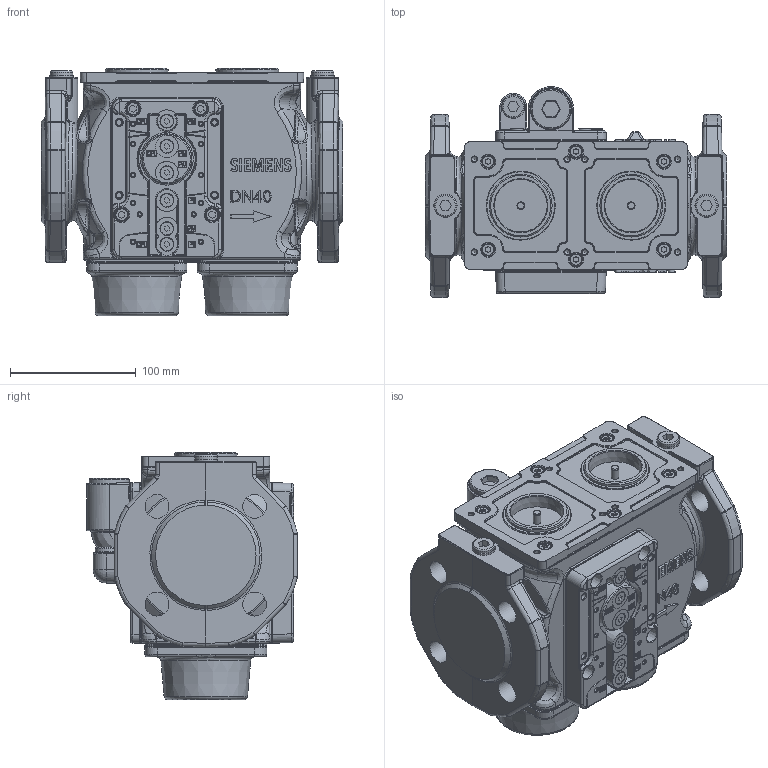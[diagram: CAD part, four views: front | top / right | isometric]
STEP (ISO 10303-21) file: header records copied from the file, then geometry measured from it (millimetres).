
FILE_DESCRIPTION(/* description */ (''),/* implementation_level */ '2;1');
FILE_NAME(/* name */ 'A5W00024972_B.stp',/* time_stamp */ '2018-06-26T11:36:36+02:00',/* author */ (''),/* organization */ (''),/* preprocessor_version */ 'ST-DEVELOPER v16',/* originating_system */ 'SIEMENS PLM Software NX 10.0',/* authorisation */ '');
FILE_SCHEMA (('AUTOMOTIVE_DESIGN { 1 0 10303 214 3 1 1 1 }'));
Products named in the file (1): Gant1EE462B7x3ds
Bounding box: 240 x 168 x 197 mm (x, y, z)
Volume: 4056096.9 mm3; surface area: 256348.2 mm2
Topology: 1 solids, 7 shells, 2963 faces, 7201 edges, 4368 vertices
Faces by surface type: plane 1124, cylinder 681, bspline 545, torus 242, cone 213, sphere 98, extrusion 60
Full cylindrical faces by diameter (mm): 4.2 x8, 5.5 x8, 6 x2, 10 x22, 10.5 x6, 11 x20, 13.5 x3, 18 x3, 18.5 x3, 19 x8, 27 x1, 32 x1, 32.5 x1, 50 x2, 54 x2
Entity records: 103977 total; most frequent: CARTESIAN_POINT 39765, ORIENTED_EDGE 13458, DIRECTION 12627, EDGE_CURVE 6729, AXIS2_PLACEMENT_3D 4767, VERTEX_POINT 4268, EDGE_LOOP 3467, VECTOR 3093
